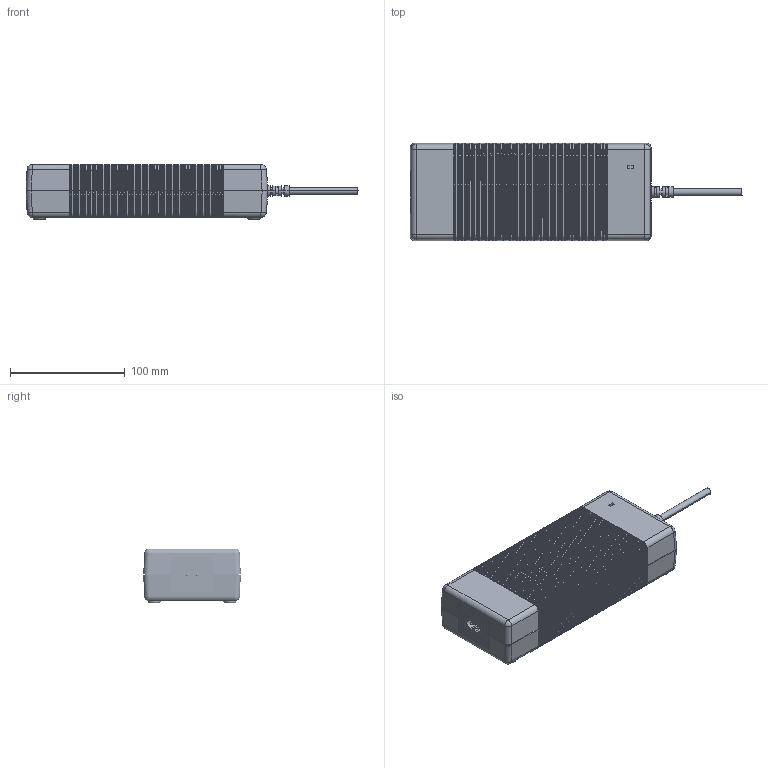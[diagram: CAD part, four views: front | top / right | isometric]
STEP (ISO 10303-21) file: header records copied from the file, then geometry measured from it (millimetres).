
FILE_DESCRIPTION(('Creo Elements/Direct Modeling STEP Export'),'2;1');
FILE_NAME('GSM220B.stp','2020-07-24T13:14:57',(''),(''),'PTC Creo Elements/Direct Modeling STEP processor for AP214 (Solid Model)','PTC Creo Elements/Direct Modeling 19.0 09-May-2014 (C) Parametric Technology GmbH','');
FILE_SCHEMA(('AUTOMOTIVE_DESIGN { 1 0 10303 214 1 1 1 1 }'));
Products named in the file (11): P1_7.PRT; DC_CABLE_1.PRT; GSM220PCB; PCB; GS-220.ASM; GP-SO222-P12S_2_PRT.PRT; SO222-Y0739-4020_11_PRT.PRT; SO-222-TC-020-BODY_5_PRT.PRT; SO-222-TC-020-P12S_ASM_1_ASM.ASM; 1EE5.ASM; GSM220.stp
Assembly tree (12 placements, depth 4):
  GSM220.stp
    1EE5.ASM
      SO-222-TC-020-P12S_ASM_1_ASM.ASM
        SO-222-TC-020-BODY_5_PRT.PRT
        SO222-Y0739-4020_11_PRT.PRT  x2
        GP-SO222-P12S_2_PRT.PRT  x2
    GS-220.ASM
      PCB
        GSM220PCB
      DC_CABLE_1.PRT
      P1_7.PRT
Bounding box: 289.01 x 85.06 x 47.79 mm (x, y, z)
Volume: 206841 mm3; surface area: 165854.4 mm2
Topology: 8 solids, 8 shells, 3689 faces, 9248 edges, 5612 vertices
Faces by surface type: bspline 2475, plane 771, cylinder 391, cone 16, torus 16, sphere 12, extrusion 8
Entity records: 265739 total; most frequent: CARTESIAN_POINT 198554, ORIENTED_EDGE 18356, EDGE_CURVE 9178, DIRECTION 6153, VERTEX_POINT 5575, B_SPLINE_CURVE_WITH_KNOTS 4795, EDGE_LOOP 3737, FACE_OUTER_BOUND 3662
